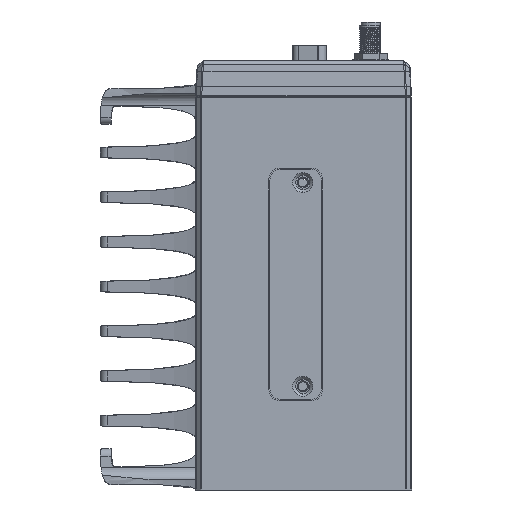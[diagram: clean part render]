
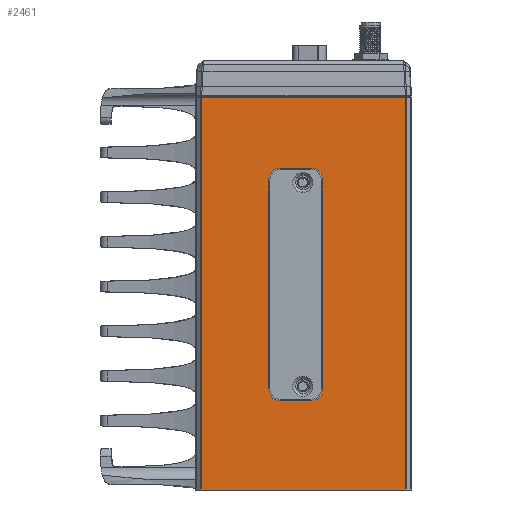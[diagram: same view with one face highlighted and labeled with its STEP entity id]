
A CAD part, front view. The second image highlights one B-rep face of the part: STEP entity #2461.
In plain terms, the highlighted planar face has unit normal (0, -1, 0).
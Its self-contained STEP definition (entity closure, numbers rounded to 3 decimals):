
#307=DIRECTION('',(1.,0.,0.));
#308=VECTOR('',#307,9.);
#309=CARTESIAN_POINT('',(28.5,-1.,-30.));
#310=LINE('',#309,#308);
#328=DIRECTION('',(0.,0.,1.));
#329=VECTOR('',#328,59.);
#330=CARTESIAN_POINT('',(25.5,-1.,-92.));
#331=LINE('',#330,#329);
#349=DIRECTION('',(-1.,0.,0.));
#350=VECTOR('',#349,9.);
#351=CARTESIAN_POINT('',(37.5,-1.,-95.));
#352=LINE('',#351,#350);
#370=DIRECTION('',(0.,0.,-1.));
#371=VECTOR('',#370,59.);
#372=CARTESIAN_POINT('',(40.5,-1.,-33.));
#373=LINE('',#372,#371);
#377=DIRECTION('',(-1.,0.,0.));
#378=VECTOR('',#377,56.986);
#379=CARTESIAN_POINT('',(63.693,-1.,-120.));
#380=LINE('',#379,#378);
#384=CARTESIAN_POINT('',(37.5,-1.,-92.));
#385=DIRECTION('',(0.,-1.,0.));
#386=DIRECTION('',(0.,0.,-1.));
#387=AXIS2_PLACEMENT_3D('',#384,#385,#386);
#392=CARTESIAN_POINT('',(37.5,-1.,-33.));
#393=DIRECTION('',(0.,-1.,0.));
#394=DIRECTION('',(1.,0.,0.));
#395=AXIS2_PLACEMENT_3D('',#392,#393,#394);
#400=CARTESIAN_POINT('',(28.5,-1.,-33.));
#401=DIRECTION('',(0.,-1.,0.));
#402=DIRECTION('',(0.,0.,1.));
#403=AXIS2_PLACEMENT_3D('',#400,#401,#402);
#408=CARTESIAN_POINT('',(28.5,-1.,-92.));
#409=DIRECTION('',(0.,-1.,0.));
#410=DIRECTION('',(-1.,0.,0.));
#411=AXIS2_PLACEMENT_3D('',#408,#409,#410);
#423=DIRECTION('',(0.,0.,1.));
#424=VECTOR('',#423,109.8);
#425=CARTESIAN_POINT('',(63.693,-1.,-120.));
#426=LINE('',#425,#424);
#503=DIRECTION('',(-1.,0.,0.));
#504=VECTOR('',#503,56.986);
#505=CARTESIAN_POINT('',(63.693,-1.,-10.2));
#506=LINE('',#505,#504);
#1542=DIRECTION('',(0.,0.,-1.));
#1543=VECTOR('',#1542,109.8);
#1544=CARTESIAN_POINT('',(6.707,-1.,-10.2));
#1545=LINE('',#1544,#1543);
#1974=CARTESIAN_POINT('',(37.5,-1.,-30.));
#1975=VERTEX_POINT('',#1974);
#1976=CARTESIAN_POINT('',(40.5,-1.,-33.));
#1977=VERTEX_POINT('',#1976);
#1978=CARTESIAN_POINT('',(28.5,-1.,-30.));
#1979=VERTEX_POINT('',#1978);
#1980=CARTESIAN_POINT('',(25.5,-1.,-33.));
#1981=VERTEX_POINT('',#1980);
#1982=CARTESIAN_POINT('',(25.5,-1.,-92.));
#1983=VERTEX_POINT('',#1982);
#1984=CARTESIAN_POINT('',(28.5,-1.,-95.));
#1985=VERTEX_POINT('',#1984);
#1986=CARTESIAN_POINT('',(37.5,-1.,-95.));
#1987=VERTEX_POINT('',#1986);
#1988=CARTESIAN_POINT('',(40.5,-1.,-92.));
#1989=VERTEX_POINT('',#1988);
#1990=CARTESIAN_POINT('',(63.693,-1.,-120.));
#1991=CARTESIAN_POINT('',(63.693,-1.,-10.2));
#1992=VERTEX_POINT('',#1990);
#1993=VERTEX_POINT('',#1991);
#1994=CARTESIAN_POINT('',(6.707,-1.,-120.));
#1995=VERTEX_POINT('',#1994);
#1996=CARTESIAN_POINT('',(6.707,-1.,-10.2));
#1997=VERTEX_POINT('',#1996);
#2436=CARTESIAN_POINT('',(5.,-1.,-10.2));
#2437=DIRECTION('',(0.,-1.,0.));
#2438=DIRECTION('',(1.,0.,0.));
#2439=AXIS2_PLACEMENT_3D('',#2436,#2437,#2438);
#2440=PLANE('',#2439);
#2442=ORIENTED_EDGE('',*,*,#2441,.F.);
#2444=ORIENTED_EDGE('',*,*,#2443,.T.);
#2446=ORIENTED_EDGE('',*,*,#2445,.F.);
#2448=ORIENTED_EDGE('',*,*,#2447,.F.);
#2449=EDGE_LOOP('',(#2442,#2444,#2446,#2448));
#2450=FACE_OUTER_BOUND('',#2449,.F.);
#2451=ORIENTED_EDGE('',*,*,#2402,.F.);
#2452=ORIENTED_EDGE('',*,*,#2417,.T.);
#2453=ORIENTED_EDGE('',*,*,#2429,.F.);
#2454=ORIENTED_EDGE('',*,*,#2332,.T.);
#2455=ORIENTED_EDGE('',*,*,#2348,.F.);
#2456=ORIENTED_EDGE('',*,*,#2361,.T.);
#2457=ORIENTED_EDGE('',*,*,#2374,.F.);
#2458=ORIENTED_EDGE('',*,*,#2389,.T.);
#2459=EDGE_LOOP('',(#2451,#2452,#2453,#2454,#2455,#2456,#2457,#2458));
#2460=FACE_BOUND('',#2459,.F.);
#388=CIRCLE('',#387,3.);
#396=CIRCLE('',#395,3.);
#404=CIRCLE('',#403,3.);
#412=CIRCLE('',#411,3.);
#2332=EDGE_CURVE('',#1977,#1975,#396,.T.);
#2348=EDGE_CURVE('',#1979,#1975,#310,.T.);
#2361=EDGE_CURVE('',#1979,#1981,#404,.T.);
#2374=EDGE_CURVE('',#1983,#1981,#331,.T.);
#2389=EDGE_CURVE('',#1983,#1985,#412,.T.);
#2402=EDGE_CURVE('',#1987,#1985,#352,.T.);
#2417=EDGE_CURVE('',#1987,#1989,#388,.T.);
#2429=EDGE_CURVE('',#1977,#1989,#373,.T.);
#2441=EDGE_CURVE('',#1992,#1993,#426,.T.);
#2443=EDGE_CURVE('',#1992,#1995,#380,.T.);
#2445=EDGE_CURVE('',#1997,#1995,#1545,.T.);
#2447=EDGE_CURVE('',#1993,#1997,#506,.T.);
#2461=ADVANCED_FACE('',(#2450,#2460),#2440,.T.);
